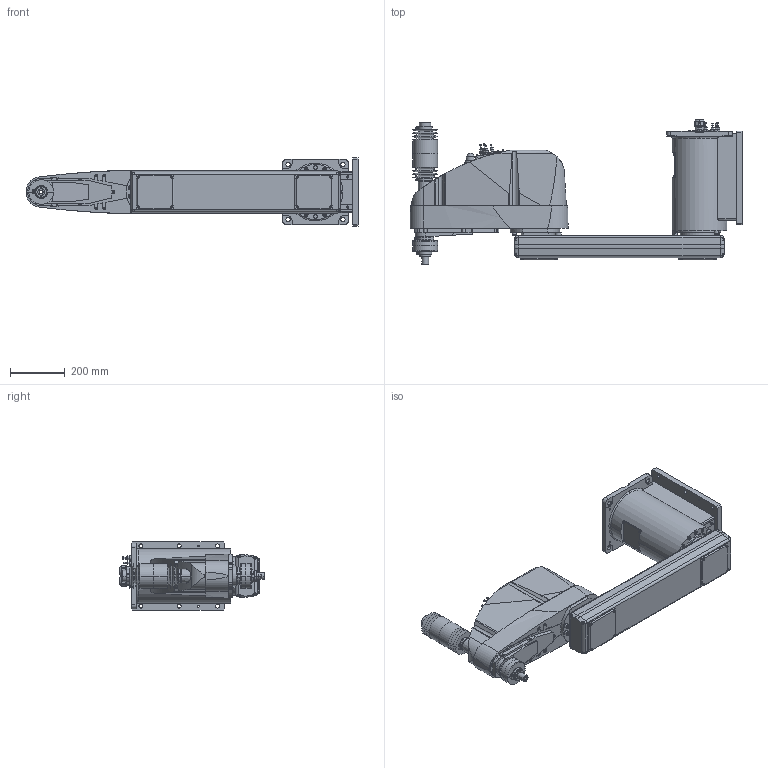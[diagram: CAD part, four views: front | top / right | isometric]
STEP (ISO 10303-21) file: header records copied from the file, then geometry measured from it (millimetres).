
FILE_DESCRIPTION( ( '' ), '1' );
FILE_NAME( '//expscmdclustefs.cadenas.external/client_exchange/iodir/jobs/output/wkb51493939_no0/STEP/G20_A01PW_2_14b.stp', '2012-11-22T09:49:52', ( '' ), ( '' ), ' ', ' ', ' ' );
FILE_SCHEMA( ( 'automotive_design' ) );
Length unit declared in the file: millimetre
Products named in the file (8): 1; 2; 3; 4; 5; 6; 7; 8
Bounding box: 1210.5 x 528 x 250 mm (x, y, z)
Volume: 45097028.7 mm3; surface area: 1782955.3 mm2
Topology: 8 solids, 8 shells, 2143 faces, 5150 edges, 3308 vertices
Faces by surface type: plane 1091, cylinder 732, cone 292, torus 27, sphere 1
Entity records: 123576 total; most frequent: CARTESIAN_POINT 12702, DIRECTION 11122, STYLED_ITEM 10593, PRESENTATION_STYLE_ASSIGNMENT 10593, COLOUR_RGB 10593, ORIENTED_EDGE 10268, EDGE_CURVE 5134, CURVE_STYLE 5134
